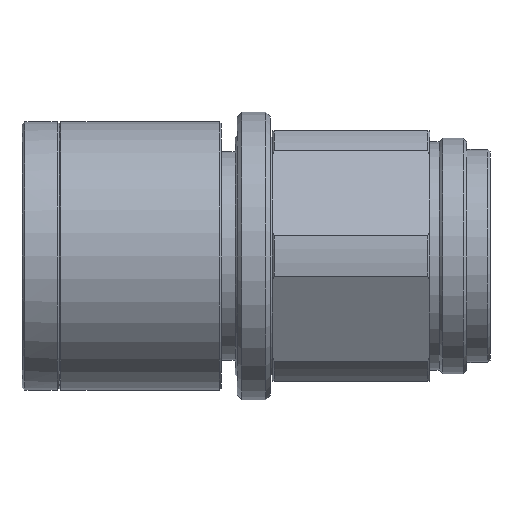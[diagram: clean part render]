
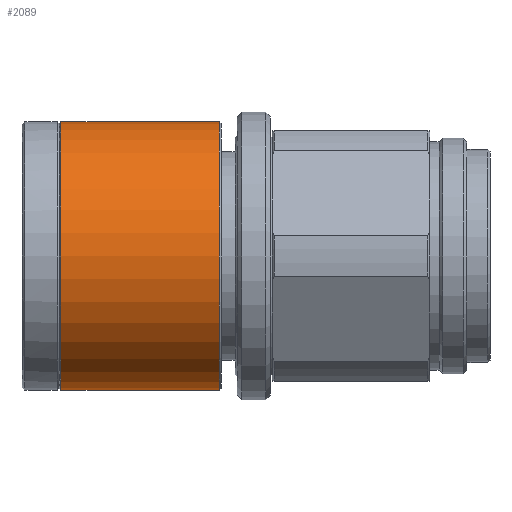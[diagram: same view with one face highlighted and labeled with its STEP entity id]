
A CAD part, front view. The second image highlights one B-rep face of the part: STEP entity #2089.
In plain terms, the highlighted cylindrical face has radius 14.5 mm (diameter 29 mm), a partial arc.
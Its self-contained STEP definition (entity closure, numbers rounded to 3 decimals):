
#85 = CARTESIAN_POINT ( 'NONE',  ( -40.201, 0., 0. ) ) ;
#118 = VERTEX_POINT ( 'NONE', #2277 ) ;
#463 = EDGE_CURVE ( 'NONE', #118, #745, #687, .T. ) ;
#687 = LINE ( 'NONE', #3309, #2016 ) ;
#705 = CIRCLE ( 'NONE', #1032, 14.5 ) ;
#745 = VERTEX_POINT ( 'NONE', #2698 ) ;
#919 = DIRECTION ( 'NONE',  ( 1., 0., 0. ) ) ;
#933 = ORIENTED_EDGE ( 'NONE', *, *, #2386, .T. ) ;
#966 = CARTESIAN_POINT ( 'NONE',  ( 0., 0., 14.5 ) ) ;
#1032 = AXIS2_PLACEMENT_3D ( 'NONE', #3590, #3224, #3319 ) ;
#1228 = DIRECTION ( 'NONE',  ( 0., 0., -1. ) ) ;
#1252 = DIRECTION ( 'NONE',  ( 1., 0., 0. ) ) ;
#1338 = ORIENTED_EDGE ( 'NONE', *, *, #463, .T. ) ;
#1585 = CIRCLE ( 'NONE', #3478, 14.5 ) ;
#1672 = ORIENTED_EDGE ( 'NONE', *, *, #2178, .F. ) ;
#1739 = DIRECTION ( 'NONE',  ( 0., 0., -1. ) ) ;
#1759 = CARTESIAN_POINT ( 'NONE',  ( 0., 0., 0. ) ) ;
#1819 = DIRECTION ( 'NONE',  ( 1., 0., 0. ) ) ;
#2016 = VECTOR ( 'NONE', #3325, 1000. ) ;
#2083 = LINE ( 'NONE', #966, #3464 ) ;
#2089 = ADVANCED_FACE ( 'NONE', ( #2344 ), #2259, .T. ) ;
#2178 = EDGE_CURVE ( 'NONE', #3621, #3658, #2083, .T. ) ;
#2259 = CYLINDRICAL_SURFACE ( 'NONE', #3603, 14.5 ) ;
#2277 = CARTESIAN_POINT ( 'NONE',  ( -57.301, 0., -14.5 ) ) ;
#2344 = FACE_OUTER_BOUND ( 'NONE', #3238, .T. ) ;
#2386 = EDGE_CURVE ( 'NONE', #3621, #118, #705, .T. ) ;
#2519 = EDGE_CURVE ( 'NONE', #3658, #745, #1585, .T. ) ;
#2617 = CARTESIAN_POINT ( 'NONE',  ( -40.201, 0., 14.5 ) ) ;
#2698 = CARTESIAN_POINT ( 'NONE',  ( -40.201, 0., -14.5 ) ) ;
#3224 = DIRECTION ( 'NONE',  ( 1., 0., 0. ) ) ;
#3238 = EDGE_LOOP ( 'NONE', ( #1672, #933, #1338, #3531 ) ) ;
#3309 = CARTESIAN_POINT ( 'NONE',  ( 0., 0., -14.5 ) ) ;
#3319 = DIRECTION ( 'NONE',  ( 0., 0., -1. ) ) ;
#3325 = DIRECTION ( 'NONE',  ( 1., 0., 0. ) ) ;
#3416 = CARTESIAN_POINT ( 'NONE',  ( -57.301, 0., 14.5 ) ) ;
#3464 = VECTOR ( 'NONE', #919, 1000. ) ;
#3478 = AXIS2_PLACEMENT_3D ( 'NONE', #85, #1252, #1228 ) ;
#3531 = ORIENTED_EDGE ( 'NONE', *, *, #2519, .F. ) ;
#3590 = CARTESIAN_POINT ( 'NONE',  ( -57.301, 0., 0. ) ) ;
#3603 = AXIS2_PLACEMENT_3D ( 'NONE', #1759, #1819, #1739 ) ;
#3621 = VERTEX_POINT ( 'NONE', #3416 ) ;
#3658 = VERTEX_POINT ( 'NONE', #2617 ) ;
